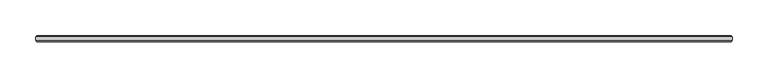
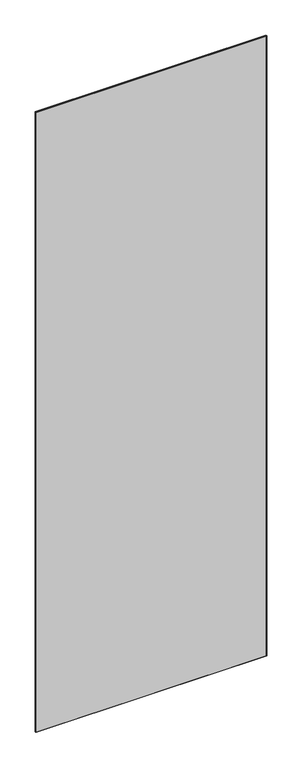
"""IFC4 building model written with IfcOpenShell, lengths in millimetres: plate geometry, 1-AMG-1-Панель одинарный витраж 8, 10 : Смещение 32 Толщина 8mm."""

from ifc_helpers import new_model, si_unit, origin, place, context, project, spatial, faceted_brep, source, transform, mapped, element, save


def plate_0116b74f(model_context):
    return source(origin(), model_context, "Body", "Brep", [
        faceted_brep([(486.2353624, -29.5038347, 2751.0), (-486.2353624, -29.5038347, 2751.0), (-486.2353624, -34.4961653, 2751.0), (486.2353624, -34.4961653, 2751.0), (486.2353624, -34.5039422, -7.0), (-486.2353624, -34.5039422, -7.0), (-486.2353624, -29.5038347, -7.0), (486.2353624, -29.5038347, -7.0), (-484.7315277, -36.0, 2749.4961653), (-484.7315277, -36.0, -5.5039422), (484.7315277, -36.0, -5.5039422), (484.7315277, -36.0, 2749.4961653), (484.7315277, -28.0, 2749.4961653), (484.7315277, -28.0, -5.4961653), (-484.7315277, -28.0, -5.4961653), (-484.7315277, -28.0, 2749.4961653)], [[[0, 1, 2, 3]], [[4, 5, 6, 7]], [[8, 9, 10, 11]], [[1, 6, 5, 2]], [[12, 13, 14, 15]], [[3, 4, 7, 0]], [[3, 11, 10, 4]], [[7, 13, 12, 0]], [[5, 9, 8, 2]], [[1, 15, 14, 6]], [[0, 12, 15, 1]], [[2, 8, 11, 3]], [[6, 14, 13, 7]], [[4, 10, 9, 5]]]),
    ])


if __name__ == "__main__":
    model = new_model("IFC4")
    model_context = context("Model", 3, world=origin())
    ifc_project = project(units=[si_unit("LENGTHUNIT", "METRE", prefix="MILLI")], contexts=[model_context])
    site = spatial("IfcSite", under=ifc_project)
    building = spatial("IfcBuilding", under=site)
    placement = place(None, origin())
    plate_shape = plate_0116b74f(model_context)
    element("IfcPlate", 1, ObjectType="1-AMG-1-Панель одинарный витраж 8, 10 : Смещение 32 Толщина 8mm", at=placement, inside=building, context=model_context, shape_type="MappedRepresentation", body=[
        mapped(plate_shape, transform((0.0, 0.0, 0.0), x_axis=(1.0, 0.0, 0.0), y_axis=(0.0, 1.0, 0.0), z_axis=(0.0, 0.0, 1.0))),
    ])
    save(model, "model.ifc")
